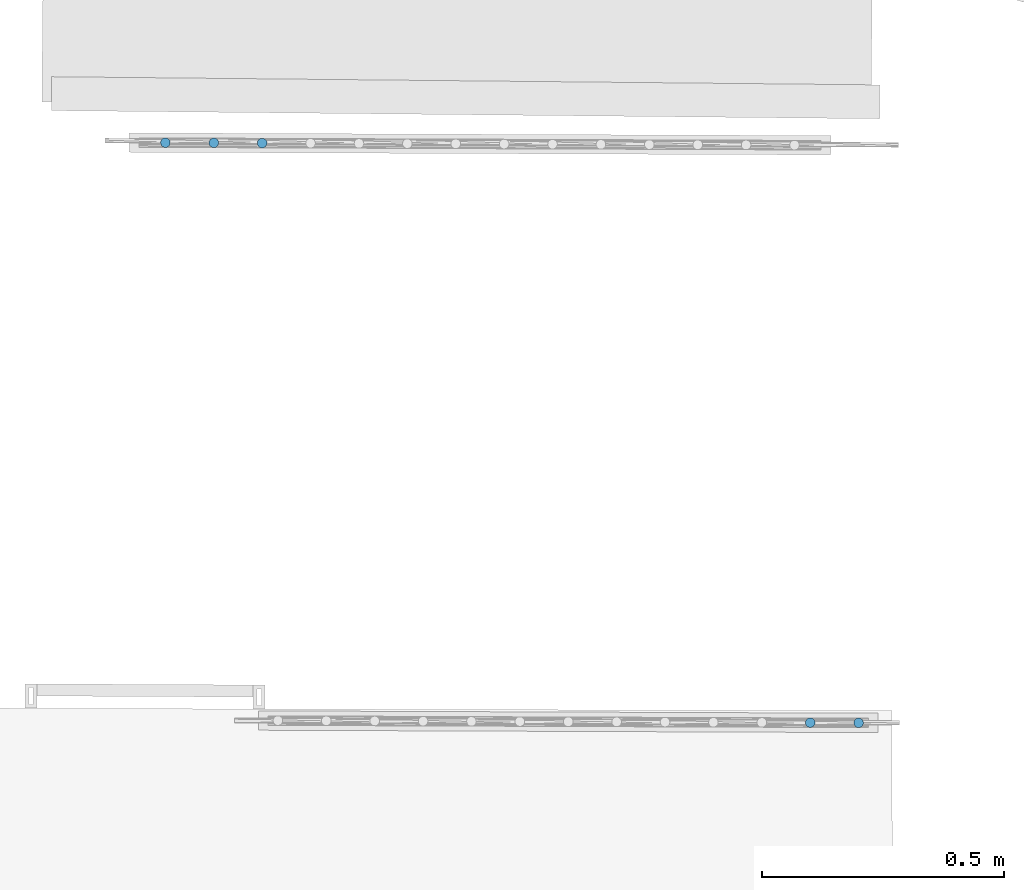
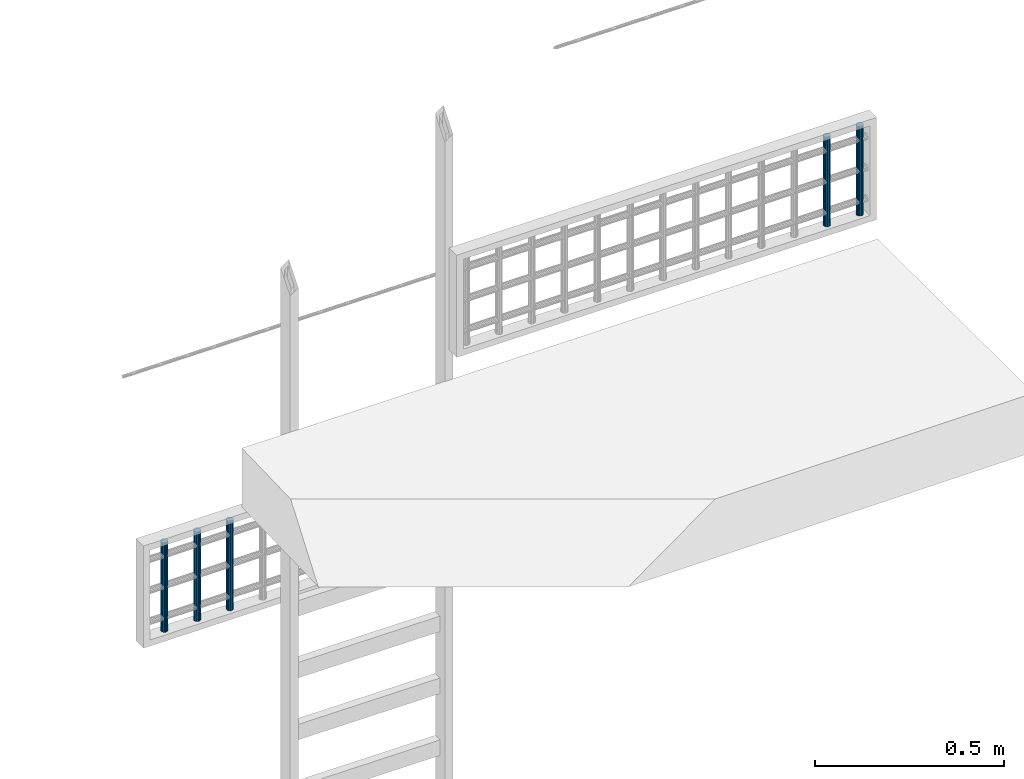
# One storey, part 17 of 39: 5 members, 2 elements without a shape of their own.
"""IFC2X3 building model written with IfcOpenShell, lengths in centimetres."""

from ifc_helpers import new_model, entity, si_unit, converted_unit, direction, frame, origin, origin_with_axes, place, context, subcontext, project, spatial, faceted_brep, material, type_object, element, aggregate, save


model = new_model("IFC2X3")

# Units and contexts
model_context = context("Model", 3, precision=0.0001, world=origin(), true_north=direction((0.225632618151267, 0.974212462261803, 0.0)))
body_context = subcontext(model_context, "Body", "Model", "MODEL_VIEW")
ifc_project = project(units=[si_unit("LENGTHUNIT", "METRE", prefix="CENTI"), si_unit("AREAUNIT", "SQUARE_METRE", prefix="CENTI"), si_unit("VOLUMEUNIT", "CUBIC_METRE", prefix="CENTI"), converted_unit("PLANEANGLEUNIT", "DEGREE", entity("IfcRatioMeasure", 0.0174532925), si_unit("PLANEANGLEUNIT", "RADIAN"), dimensions=[0, 0, 0, 0, 0, 0, 0])], contexts=[model_context])

# Site, building, storey
site_placement = place(None, origin_with_axes())
site = spatial("IfcSite", under=ifc_project, at=site_placement, Name="Default Site", CompositionType="ELEMENT")
building_placement = place(site_placement, origin_with_axes())
building = spatial("IfcBuilding", under=site, at=building_placement, Name="Default Building", CompositionType="ELEMENT")
storey_placement = place(building_placement, frame((0.0, 0.0, 1088.91037418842), z_axis=(0.0, 0.0, 1.0), x_axis=(1.0, 0.0, 0.0)))
storey = spatial("IfcBuildingStorey", under=building, at=storey_placement, Name="Mezzanine", CompositionType="ELEMENT", Elevation=1088.91037418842)

# Assembly, members
building_element_proxy_type = type_object("IfcBuildingElementProxyType", Name="Type Object", PredefinedType="NOTDEFINED")
assembly_1_placement = place(storey_placement, frame((1135.88365779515, -230.612962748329, -220.0), z_axis=(0.0, 0.0, 1.0), x_axis=(0.999992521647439, -0.00386738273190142, 0.0)))
assembly_1 = element("IfcElementAssembly", 1, at=assembly_1_placement, inside=storey, type_object=building_element_proxy_type, Name="Panneau 1519653", ObjectType="Precast panel", PredefinedType="USERDEFINED")
ifc_material = material(Name="Blanc trafic")
member_1_placement = place(assembly_1_placement, frame((8.43969285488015, 0.342020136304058, 31.0000002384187), z_axis=(0.0, 0.0, 0.999999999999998), x_axis=(0.500000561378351, -0.866025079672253, 0.0)))
member_1 = element("IfcMember", 2, at=member_1_placement, material=ifc_material, Name="4294967248", context=body_context, shape_type="Brep", body=[
    faceted_brep([(2.79637424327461e-13, 3.62210261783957e-13, 1.83186799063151e-13), (-0.347296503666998, 4.23272528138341e-13, 1.83186799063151e-13), (-0.673648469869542, -0.118782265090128, 1.83186799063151e-13), (-0.939693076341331, -0.34201987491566, 1.83186799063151e-13), (-1.11334134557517, -0.64278704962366, 1.83186799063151e-13), (-1.17364892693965, -0.984807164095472, 1.83186799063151e-13), (-1.11334184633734, -1.32682746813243, 1.83186799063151e-13), (-0.9396936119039, -1.62759464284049, 1.83186799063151e-13), (-0.673649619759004, -1.85083312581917, 1.83186799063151e-13), (-0.34729758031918, -1.96961516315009, 1.83186799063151e-13), (-1.44918135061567e-06, -1.96961580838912, 1.83186799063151e-13), (0.326350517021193, -1.85083354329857, 1.83186799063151e-13), (0.592395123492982, -1.62759593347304, 1.83186799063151e-13), (0.766043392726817, -1.32682875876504, 1.83186799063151e-13), (0.826350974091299, -0.984808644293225, 1.83186799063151e-13), (0.766043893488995, -0.642788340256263, 1.83186799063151e-13), (0.592396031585, -0.342020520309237, 1.83186799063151e-13), (0.326351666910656, -0.118782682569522, 1.83186799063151e-13), (0.326351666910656, -0.118782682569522, -29.0000002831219), (0.592396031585, -0.342020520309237, -29.0000002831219), (0.766043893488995, -0.642788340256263, -29.0000002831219), (0.826350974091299, -0.984808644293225, -29.0000002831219), (0.766043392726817, -1.32682875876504, -29.0000002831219), (0.592395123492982, -1.62759593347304, -29.0000002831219), (0.326350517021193, -1.85083354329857, -29.0000002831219), (-1.44918135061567e-06, -1.96961580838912, -29.0000002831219), (-0.34729758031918, -1.96961516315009, -29.0000002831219), (-0.673649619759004, -1.85083312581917, -29.0000002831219), (-0.9396936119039, -1.62759464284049, -29.0000002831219), (-1.11334184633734, -1.32682746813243, -29.0000002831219), (-1.17364892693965, -0.984807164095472, -29.0000002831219), (-1.11334134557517, -0.64278704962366, -29.0000002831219), (-0.939693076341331, -0.34201987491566, -29.0000002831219), (-0.673648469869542, -0.118782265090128, -29.0000002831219), (-0.347296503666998, 4.23272528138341e-13, -29.0000002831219), (2.79637424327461e-13, 3.62210261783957e-13, -29.0000002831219), (0.592395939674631, -0.342020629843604, 1.83186799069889e-13), (0.59239593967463, -0.342020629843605, -29.0000002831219), (0.326351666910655, -0.118782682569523, -29.0000002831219), (0.766044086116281, -0.642788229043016, 1.83186799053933e-13), (0.76604408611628, -0.642788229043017, -29.0000002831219), (0.592396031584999, -0.342020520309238, -29.0000002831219), (0.826351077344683, -0.984808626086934, 1.83186799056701e-13), (0.826351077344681, -0.984808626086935, -29.0000002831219), (0.766043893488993, -0.642788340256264, -29.0000002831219), (0.766043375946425, -1.32682875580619, 1.83186799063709e-13), (0.766043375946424, -1.32682875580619, -29.0000002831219), (0.826350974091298, -0.984808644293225, -29.0000002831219), (0.326350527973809, -1.85083355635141, 1.83186799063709e-13), (0.32635052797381, -1.85083355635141, -29.0000002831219), (0.592395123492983, -1.62759593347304, -29.0000002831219), (-1.4850408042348e-06, -1.96961570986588, 1.83186799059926e-13), (-1.48504080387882e-06, -1.96961570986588, -29.0000002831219), (-0.347297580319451, -1.96961558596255, 1.83186799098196e-13), (-0.347297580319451, -1.96961558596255, -29.0000002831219), (-0.673649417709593, -1.85083257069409, 1.8318679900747e-13), (-0.673649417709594, -1.85083257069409, -29.0000002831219), (-0.347297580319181, -1.9696151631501, -29.0000002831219), (-0.939693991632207, -1.62759509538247, 1.83186799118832e-13), (-0.939693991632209, -1.62759509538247, -29.0000002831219), (-0.673649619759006, -1.85083312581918, -29.0000002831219), (-1.11334148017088, -1.32682725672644, 1.83186799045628e-13), (-1.11334148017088, -1.32682725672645, -29.0000002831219), (-0.939693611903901, -1.62759464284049, -29.0000002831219), (-1.17364903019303, -0.984807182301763, 1.83186799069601e-13), (-1.17364903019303, -0.984807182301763, -29.0000002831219), (-1.11334184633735, -1.32682746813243, -29.0000002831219), (-1.11334132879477, -0.642787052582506, 1.83186799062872e-13), (-1.11334132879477, -0.642787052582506, -29.0000002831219), (-0.673648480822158, -0.118782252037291, 1.83186799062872e-13), (-0.673648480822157, -0.118782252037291, -29.0000002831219), (-0.347296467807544, -9.85228218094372e-08, 1.83186799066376e-13), (-0.347296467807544, -9.85228226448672e-08, -29.0000002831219), (-0.673648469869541, -0.118782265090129, -29.0000002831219), (1.37183726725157e-13, -2.22426384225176e-07, 1.83186799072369e-13), (1.37183725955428e-13, -2.22426385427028e-07, -29.0000002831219), (-0.347296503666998, 4.22070676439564e-13, -29.0000002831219), (0.326351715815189, -0.118782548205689, 1.83186799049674e-13), (0.326351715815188, -0.118782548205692, -29.0000002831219), (2.78702547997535e-13, 3.59641715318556e-13, -29.0000002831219)], [[[0, 1, 2, 3, 4, 5, 6, 7, 8, 9, 10, 11, 12, 13, 14, 15, 16, 17]], [[18, 19, 20, 21, 22, 23, 24, 25, 26, 27, 28, 29, 30, 31, 32, 33, 34, 35]], [[17, 36, 37, 38]], [[16, 39, 40, 41]], [[15, 42, 43, 44]], [[14, 45, 46, 47]], [[13, 12, 23, 22]], [[12, 48, 49, 50]], [[11, 51, 52, 24]], [[10, 53, 54, 25]], [[9, 55, 56, 57]], [[8, 58, 59, 60]], [[7, 61, 62, 63]], [[6, 64, 65, 66]], [[5, 67, 68, 30]], [[4, 3, 32, 31]], [[3, 69, 70, 32]], [[2, 71, 72, 73]], [[1, 74, 75, 76]], [[0, 77, 78, 79]]]),
])
member_2_placement = place(assembly_1_placement, frame((18.4396922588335, 0.342020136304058, 31.0000002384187), z_axis=(0.0, 0.0, 0.999999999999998), x_axis=(0.499998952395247, -0.866026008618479, 0.0)))
member_2 = element("IfcMember", 3, at=member_2_placement, material=ifc_material, Name="4294967247", context=body_context, shape_type="Brep", body=[
    faceted_brep([(2.95596880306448e-13, 4.88498130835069e-13, 5.55111512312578e-15), (-0.347296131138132, 3.38618022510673e-13, 5.55111512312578e-15), (-0.673647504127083, -0.118782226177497, 5.55111512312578e-15), (-0.939691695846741, -0.34202033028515, 5.55111512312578e-15), (-1.11333977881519, -0.642788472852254, 5.55111512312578e-15), (-1.17364672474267, -0.984808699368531, 5.55111512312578e-15), (-1.11333938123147, -1.32682953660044, 5.55111512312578e-15), (-0.939690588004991, -1.62759638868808, 5.55111512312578e-15), (-0.67364543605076, -1.85083308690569, 5.55111512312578e-15), (-0.347293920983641, -1.96961580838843, 5.55111512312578e-15), (2.21015478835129e-06, -1.96961580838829, 5.55111512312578e-15), (0.326354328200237, -1.85083229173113, 5.55111512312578e-15), (0.592398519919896, -1.62759418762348, 5.55111512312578e-15), (0.766046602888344, -1.32682604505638, 5.55111512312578e-15), (0.826353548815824, -0.984805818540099, 5.55111512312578e-15), (0.766045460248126, -0.64278627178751, 5.55111512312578e-15), (0.592396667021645, -0.342019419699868, 5.55111512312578e-15), (0.326352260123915, -0.11878143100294, 5.55111512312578e-15), (0.326352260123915, -0.11878143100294, -29.0000002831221), (0.592396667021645, -0.342019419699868, -29.0000002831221), (0.766045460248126, -0.64278627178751, -29.0000002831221), (0.826353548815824, -0.984805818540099, -29.0000002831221), (0.766046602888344, -1.32682604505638, -29.0000002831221), (0.592398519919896, -1.62759418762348, -29.0000002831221), (0.326354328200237, -1.85083229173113, -29.0000002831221), (2.21015478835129e-06, -1.96961580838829, -29.0000002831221), (-0.347293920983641, -1.96961580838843, -29.0000002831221), (-0.67364543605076, -1.85083308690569, -29.0000002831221), (-0.939690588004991, -1.62759638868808, -29.0000002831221), (-1.11333938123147, -1.32682953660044, -29.0000002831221), (-1.17364672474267, -0.984808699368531, -29.0000002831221), (-1.11333977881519, -0.642788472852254, -29.0000002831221), (-0.939691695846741, -0.34202033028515, -29.0000002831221), (-0.673647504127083, -0.118782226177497, -29.0000002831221), (-0.347296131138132, 3.38618022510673e-13, -29.0000002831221), (2.95596880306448e-13, 4.88498130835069e-13, -29.0000002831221), (0.59239704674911, -0.342018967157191, 5.55111506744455e-15), (0.592397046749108, -0.342018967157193, -29.0000002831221), (0.326352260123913, -0.118781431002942, -29.0000002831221), (0.76604509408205, -0.642786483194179, 5.55111515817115e-15), (0.766045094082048, -0.64278648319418, -29.0000002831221), (0.592396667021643, -0.342019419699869, -29.0000002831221), (0.826353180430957, -0.984805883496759, 5.55111514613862e-15), (0.826353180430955, -0.984805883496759, -29.0000002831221), (0.766045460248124, -0.64278627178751, -29.0000002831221), (0.766046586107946, -1.32682604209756, 5.55111512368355e-15), (0.766046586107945, -1.32682604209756, -29.0000002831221), (0.826353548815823, -0.984805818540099, -29.0000002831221), (0.592398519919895, -1.62759418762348, 5.55111512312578e-15), (0.592398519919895, -1.62759418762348, -29.0000002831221), (0.326354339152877, -1.85083230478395, 5.55111512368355e-15), (0.326354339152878, -1.85083230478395, -29.0000002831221), (2.0104963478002e-06, -1.96961525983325, 5.55111512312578e-15), (2.0104963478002e-06, -1.96961525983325, -29.0000002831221), (-0.347293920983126, -1.96961623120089, 5.55111515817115e-15), (-0.347293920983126, -1.96961623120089, -29.0000002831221), (2.2101547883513e-06, -1.96961580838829, -29.0000002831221), (-0.673645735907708, -1.850833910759, 5.55111520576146e-15), (-0.673645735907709, -1.850833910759, -29.0000002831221), (-0.347293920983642, -1.96961580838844, -29.0000002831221), (-0.939690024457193, -1.62759571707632, 5.55111504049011e-15), (-0.939690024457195, -1.62759571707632, -29.0000002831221), (-0.673645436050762, -1.85083308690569, -29.0000002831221), (-1.11333901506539, -1.32682932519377, 5.55111512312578e-15), (-1.11333901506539, -1.32682932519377, -29.0000002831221), (-1.17364729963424, -0.984808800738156, 5.551115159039e-15), (-1.17364729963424, -0.984808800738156, -29.0000002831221), (-1.11333976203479, -0.64278847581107, 5.55111512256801e-15), (-1.11333976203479, -0.64278847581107, -29.0000002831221), (-1.17364672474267, -0.98480869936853, -29.0000002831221), (-0.673647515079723, -0.118782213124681, 5.55111512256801e-15), (-0.673647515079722, -0.118782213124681, -29.0000002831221), (-0.93969169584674, -0.342020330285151, -29.0000002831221), (-0.3472962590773, 3.51509016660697e-07, 5.55111510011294e-15), (-0.3472962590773, 3.51509014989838e-07, -29.0000002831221), (-0.673647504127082, -0.118782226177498, -29.0000002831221), (-2.19152406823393e-13, 4.22812944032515e-07, 5.55111508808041e-15), (-2.19152403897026e-13, 4.22812941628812e-07, -29.0000002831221), (-0.347296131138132, 3.36214319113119e-13, -29.0000002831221), (0.326352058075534, -0.118781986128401, 5.55111517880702e-15), (0.326352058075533, -0.118781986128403, -29.0000002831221), (2.94662008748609e-13, 4.85929582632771e-13, -29.0000002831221)], [[[0, 1, 2, 3, 4, 5, 6, 7, 8, 9, 10, 11, 12, 13, 14, 15, 16, 17]], [[18, 19, 20, 21, 22, 23, 24, 25, 26, 27, 28, 29, 30, 31, 32, 33, 34, 35]], [[17, 36, 37, 38]], [[16, 39, 40, 41]], [[15, 42, 43, 44]], [[14, 45, 46, 47]], [[13, 48, 49, 22]], [[12, 50, 51, 23]], [[11, 52, 53, 24]], [[10, 54, 55, 56]], [[9, 57, 58, 59]], [[8, 60, 61, 62]], [[7, 63, 64, 28]], [[6, 65, 66, 29]], [[5, 67, 68, 69]], [[4, 3, 32, 31]], [[3, 70, 71, 72]], [[2, 73, 74, 75]], [[1, 76, 77, 78]], [[0, 79, 80, 81]]]),
])
member_3_placement = place(assembly_1_placement, frame((28.4396916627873, 0.342020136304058, 31.0000002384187), z_axis=(0.0, 0.0, 0.999999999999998), x_axis=(0.499995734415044, -0.866027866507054, 0.0)))
member_3 = element("IfcMember", 4, at=member_3_placement, material=ifc_material, Name="4294967246", context=body_context, shape_type="Brep", body=[
    faceted_brep([(2.77555756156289e-13, 1.94289029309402e-13, 1.83186799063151e-13), (-0.347295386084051, 2.44249065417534e-13, 1.83186799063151e-13), (-0.673647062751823, -0.118784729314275, 1.83186799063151e-13), (-0.939691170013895, -0.34202511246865, 1.83186799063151e-13), (-1.11333739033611, -0.6427926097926, 1.83186799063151e-13), (-1.17364232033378, -0.984811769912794, 1.83186799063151e-13), (-1.11333370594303, -1.3268323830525, 1.83186799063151e-13), (-0.939684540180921, -1.6275998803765, 1.83186799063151e-13), (-0.673639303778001, -1.85083688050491, 1.83186799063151e-13), (-0.347286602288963, -1.9696170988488, 1.83186799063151e-13), (1.02738987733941e-05, -1.96961451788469, 1.83186799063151e-13), (0.326361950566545, -1.85082978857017, 1.83186799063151e-13), (0.59240456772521, -1.62759198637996, 1.83186799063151e-13), (0.766050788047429, -1.32682448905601, 1.83186799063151e-13), (0.826357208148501, -0.984802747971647, 1.83186799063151e-13), (0.766048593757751, -0.642782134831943, 1.83186799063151e-13), (0.592397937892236, -0.342017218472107, 1.83186799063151e-13), (0.326352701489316, -0.1187802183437, 1.83186799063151e-13), (0.326352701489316, -0.1187802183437, -29.0000002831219), (0.592397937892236, -0.342017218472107, -29.0000002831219), (0.766048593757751, -0.642782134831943, -29.0000002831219), (0.826357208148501, -0.984802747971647, -29.0000002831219), (0.766050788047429, -1.32682448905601, -29.0000002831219), (0.59240456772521, -1.62759198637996, -29.0000002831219), (0.326361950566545, -1.85082978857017, -29.0000002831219), (1.02738987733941e-05, -1.96961451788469, -29.0000002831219), (-0.347286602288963, -1.9696170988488, -29.0000002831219), (-0.673639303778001, -1.85083688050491, -29.0000002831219), (-0.939684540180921, -1.6275998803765, -29.0000002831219), (-1.11333370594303, -1.3268323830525, -29.0000002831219), (-1.17364232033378, -0.984811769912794, -29.0000002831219), (-1.11333739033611, -0.6427926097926, -29.0000002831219), (-0.939691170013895, -0.34202511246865, -29.0000002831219), (-0.673647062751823, -0.118784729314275, -29.0000002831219), (-0.347295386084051, 2.44249065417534e-13, -29.0000002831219), (2.77555756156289e-13, 1.94289029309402e-13, -29.0000002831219), (0.592398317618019, -0.342016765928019, 1.83186799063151e-13), (0.592398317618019, -0.342016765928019, -29.0000002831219), (0.766047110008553, -0.64278299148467, 1.83186799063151e-13), (0.766047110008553, -0.64278299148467, -29.0000002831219), (0.826357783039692, -0.984802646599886, 1.83186799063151e-13), (0.826357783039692, -0.984802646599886, -29.0000002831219), (0.766051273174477, -1.32682457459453, 1.83186799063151e-13), (0.766051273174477, -1.32682457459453, -29.0000002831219), (0.592404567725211, -1.62759198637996, 1.83186799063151e-13), (0.592404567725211, -1.62759198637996, -29.0000002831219), (0.326362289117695, -1.85083019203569, 1.83186799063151e-13), (0.326362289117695, -1.85083019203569, -29.0000002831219), (1.00742382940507e-05, -1.96961396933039, 1.83186799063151e-13), (1.00742382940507e-05, -1.96961396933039, -29.0000002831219), (-0.347286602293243, -1.96961623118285, 1.83186799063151e-13), (-0.347286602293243, -1.96961623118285, -29.0000002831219), (-0.673639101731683, -1.8508363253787, 1.83186799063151e-13), (-0.673639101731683, -1.8508363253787, -29.0000002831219), (-0.939684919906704, -1.62760033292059, 1.83186799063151e-13), (-0.939684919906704, -1.62760033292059, -29.0000002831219), (-1.11333445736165, -1.32683281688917, 1.83186799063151e-13), (-1.11333445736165, -1.32683281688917, -29.0000002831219), (-1.17364289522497, -0.984811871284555, 1.83186799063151e-13), (-1.17364289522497, -0.984811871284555, -29.0000002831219), (-1.11333687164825, -0.642792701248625, 1.83186799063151e-13), (-1.11333687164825, -0.642792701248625, -29.0000002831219), (-0.939691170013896, -0.342025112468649, 1.83186799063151e-13), (-0.939691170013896, -0.342025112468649, -29.0000002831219), (-0.673646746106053, -0.118785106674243, 1.83186799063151e-13), (-0.673646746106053, -0.118785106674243, -29.0000002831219), (-0.347295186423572, -5.48554046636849e-07, 1.83186799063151e-13), (-0.347295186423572, -5.48554046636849e-07, -29.0000002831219), (-8.17451593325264e-12, 1.71329105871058e-06, 1.83186799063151e-13), (-8.17451593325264e-12, 1.71329105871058e-06, -29.0000002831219), (0.326352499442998, -0.118780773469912, 1.83186799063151e-13), (0.326352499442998, -0.118780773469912, -29.0000002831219)], [[[0, 1, 2, 3, 4, 5, 6, 7, 8, 9, 10, 11, 12, 13, 14, 15, 16, 17]], [[18, 19, 20, 21, 22, 23, 24, 25, 26, 27, 28, 29, 30, 31, 32, 33, 34, 35]], [[17, 36, 37, 18]], [[16, 38, 39, 19]], [[15, 40, 41, 20]], [[14, 42, 43, 21]], [[13, 44, 45, 22]], [[12, 46, 47, 23]], [[11, 48, 49, 24]], [[10, 50, 51, 25]], [[9, 52, 53, 26]], [[8, 54, 55, 27]], [[7, 56, 57, 28]], [[6, 58, 59, 29]], [[5, 60, 61, 30]], [[4, 62, 63, 31]], [[3, 64, 65, 32]], [[2, 66, 67, 33]], [[1, 68, 69, 34]], [[0, 70, 71, 35]]]),
])
aggregate(assembly_1, [member_1, member_2, member_3])

assembly_2_placement = place(storey_placement, frame((1162.63, -350.05, -63.0000000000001), z_axis=(0.0, 0.0, 1.0), x_axis=(0.999992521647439, -0.00386738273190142, 0.0)))
assembly_2 = element("IfcElementAssembly", 5, at=assembly_2_placement, inside=storey, type_object=building_element_proxy_type, Name="Panneau 1519648", ObjectType="Precast panel", PredefinedType="USERDEFINED")
member_4_placement = place(assembly_2_placement, frame((114.939689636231, 0.342020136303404, 31.0000002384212), z_axis=(0.0, 0.0, 0.999999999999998), x_axis=(0.499982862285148, -0.866035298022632, 0.0)))
member_4 = element("IfcMember", 6, at=member_4_placement, material=ifc_material, Name="4294967213", context=body_context, shape_type="Brep", body=[
    faceted_brep([(-2.53130849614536e-12, -2.66453525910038e-12, -2.75890421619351e-12), (-0.347292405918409, -2.62012633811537e-12, -2.75890421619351e-12), (-0.673645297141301, -0.118794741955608, -2.75890421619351e-12), (-0.939683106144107, -0.342033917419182, -2.75890421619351e-12), (-1.11332932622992, -0.642811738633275, -2.75890421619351e-12), (-1.17362768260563, -0.984829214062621, -2.75890421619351e-12), (-1.11331100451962, -1.32684376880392, -2.75890421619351e-12), (-0.939658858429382, -1.6276112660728, -2.75890421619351e-12), (-0.673610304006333, -1.85084431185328, -2.75890421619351e-12), (-0.347255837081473, -1.96961967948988, -2.75890421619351e-12), (4.25290945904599e-05, -1.96960935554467, -2.75890421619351e-12), (0.326389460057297, -1.85082493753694, -2.75890421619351e-12), (0.592427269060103, -1.62758576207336, -2.75890421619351e-12), (0.766073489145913, -1.32680794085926, -2.75890421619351e-12), (0.826371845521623, -0.98479046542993, -2.75890421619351e-12), (0.766061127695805, -0.642765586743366, -2.75890421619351e-12), (0.592403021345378, -0.342008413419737, -2.75890421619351e-12), (0.32635446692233, -0.118775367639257, -2.75890421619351e-12), (0.32635446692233, -0.118775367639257, -29.0000002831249), (0.592403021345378, -0.342008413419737, -29.0000002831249), (0.766061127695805, -0.642765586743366, -29.0000002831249), (0.826371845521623, -0.98479046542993, -29.0000002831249), (0.766073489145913, -1.32680794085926, -29.0000002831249), (0.592427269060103, -1.62758576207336, -29.0000002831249), (0.326389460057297, -1.85082493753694, -29.0000002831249), (4.25290945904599e-05, -1.96960935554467, -29.0000002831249), (-0.347255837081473, -1.96961967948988, -29.0000002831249), (-0.673610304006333, -1.85084431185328, -29.0000002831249), (-0.939658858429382, -1.6276112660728, -29.0000002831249), (-1.11331100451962, -1.32684376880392, -29.0000002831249), (-1.17362768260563, -0.984829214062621, -29.0000002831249), (-1.11332932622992, -0.642811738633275, -29.0000002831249), (-0.939683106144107, -0.342033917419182, -29.0000002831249), (-0.673645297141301, -0.118794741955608, -29.0000002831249), (-0.347292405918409, -2.62012633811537e-12, -29.0000002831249), (-2.53130849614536e-12, -2.66453525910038e-12, -29.0000002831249), (0.592403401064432, -0.342007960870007, -2.75890421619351e-12), (0.592403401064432, -0.342007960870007, -29.0000002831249), (0.766055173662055, -0.642769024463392, -2.75890421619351e-12), (0.766055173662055, -0.642769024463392, -29.0000002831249), (0.826376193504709, -0.98478969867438, -2.75890421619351e-12), (0.826376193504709, -0.98478969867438, -29.0000002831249), (0.766071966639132, -1.32680767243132, -2.75890421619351e-12), (0.766071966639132, -1.32680767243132, -29.0000002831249), (0.592427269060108, -1.62758576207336, -2.75890421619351e-12), (0.592427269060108, -1.62758576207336, -29.0000002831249), (0.326390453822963, -1.85082612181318, -2.75890421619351e-12), (0.326390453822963, -1.85082612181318, -29.0000002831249), (4.36398832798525e-05, -1.96961240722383, -2.75890421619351e-12), (4.36398832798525e-05, -1.96961240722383, -29.0000002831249), (-0.347255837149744, -1.96961623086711, -2.75890421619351e-12), (-0.347255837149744, -1.96961623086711, -29.0000002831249), (-0.67361010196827, -1.85084375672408, -2.75890421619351e-12), (-0.67361010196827, -1.85084375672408, -29.0000002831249), (-0.939659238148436, -1.62761171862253, -2.75890421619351e-12), (-0.939659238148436, -1.62761171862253, -29.0000002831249), (-1.11331399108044, -1.32684549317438, -2.75890421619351e-12), (-1.11331399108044, -1.32684549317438, -29.0000002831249), (-1.17362448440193, -0.984828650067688, -2.75890421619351e-12), (-1.17362448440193, -0.984828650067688, -29.0000002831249), (-1.11332780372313, -0.642812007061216, -2.75890421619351e-12), (-1.11332780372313, -0.642812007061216, -29.0000002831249), (-0.939683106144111, -0.34203391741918, -2.75890421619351e-12), (-0.939683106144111, -0.34203391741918, -29.0000002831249), (-0.673646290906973, -0.118793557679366, -2.75890421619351e-12), (-0.673646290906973, -0.118793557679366, -29.0000002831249), (-0.347290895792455, -4.14878442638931e-06, -2.75890421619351e-12), (-0.347290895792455, -4.14878442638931e-06, -29.0000002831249), (-1.38636894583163e-10, 6.87520182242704e-06, -2.75890421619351e-12), (-1.38636894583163e-10, 6.87520182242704e-06, -29.0000002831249), (0.326354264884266, -0.118775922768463, -2.75890421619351e-12), (0.326354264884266, -0.118775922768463, -29.0000002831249)], [[[0, 1, 2, 3, 4, 5, 6, 7, 8, 9, 10, 11, 12, 13, 14, 15, 16, 17]], [[18, 19, 20, 21, 22, 23, 24, 25, 26, 27, 28, 29, 30, 31, 32, 33, 34, 35]], [[17, 36, 37, 18]], [[16, 38, 39, 19]], [[15, 40, 41, 20]], [[14, 42, 43, 21]], [[13, 44, 45, 22]], [[12, 46, 47, 23]], [[11, 48, 49, 24]], [[10, 50, 51, 25]], [[9, 52, 53, 26]], [[8, 54, 55, 27]], [[7, 56, 57, 28]], [[6, 58, 59, 29]], [[5, 60, 61, 30]], [[4, 62, 63, 31]], [[3, 64, 65, 32]], [[2, 66, 67, 33]], [[1, 68, 69, 34]], [[0, 70, 71, 35]]]),
])
member_5_placement = place(assembly_2_placement, frame((124.939692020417, 0.342020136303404, 31.0000002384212), z_axis=(0.0, 0.0, 0.999999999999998), x_axis=(0.500008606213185, -0.866020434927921, 0.0)))
member_5 = element("IfcMember", 7, at=member_5_placement, material=ifc_material, Name="4294967212", context=body_context, shape_type="Brep", body=[
    faceted_brep([(-2.35367281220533e-12, -2.53130849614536e-12, -2.75890421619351e-12), (-0.347298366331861, -2.64233079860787e-12, -2.75890421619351e-12), (-0.673648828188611, -0.118774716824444, -2.75890421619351e-12), (-0.93969327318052, -0.342005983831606, -2.75890421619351e-12), (-1.11334843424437, -0.642778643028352, -2.75890421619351e-12), (-1.17365695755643, -0.984794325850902, -2.75890421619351e-12), (-1.11335640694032, -1.32682099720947, -2.75890421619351e-12), (-0.939707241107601, -1.62758333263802, -2.75890421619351e-12), (-0.673665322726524, -1.85082428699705, -2.75890421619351e-12), (-0.347314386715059, -1.96960935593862, -2.75890421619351e-12), (-2.19809526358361e-05, -1.96961967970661, -2.75890421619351e-12), (0.326334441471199, -1.85083463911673, -2.75890421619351e-12), (0.592378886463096, -1.62760337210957, -2.75890421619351e-12), (0.766034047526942, -1.32683071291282, -2.75890421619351e-12), (0.826342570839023, -0.984815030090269, -2.75890421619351e-12), (0.766036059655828, -0.64279868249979, -2.75890421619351e-12), (0.592392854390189, -0.342026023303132, -2.75890421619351e-12), (0.326350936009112, -0.118785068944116, -2.75890421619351e-12), (0.326350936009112, -0.118785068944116, -29.0000002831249), (0.592392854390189, -0.342026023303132, -29.0000002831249), (0.766036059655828, -0.64279868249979, -29.0000002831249), (0.826342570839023, -0.984815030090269, -29.0000002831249), (0.766034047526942, -1.32683071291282, -29.0000002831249), (0.592378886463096, -1.62760337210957, -29.0000002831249), (0.326334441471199, -1.85083463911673, -29.0000002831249), (-2.19809526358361e-05, -1.96961967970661, -29.0000002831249), (-0.347314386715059, -1.96960935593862, -29.0000002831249), (-0.673665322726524, -1.85082428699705, -29.0000002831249), (-0.939707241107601, -1.62758333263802, -29.0000002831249), (-1.11335640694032, -1.32682099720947, -29.0000002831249), (-1.17365695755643, -0.984794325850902, -29.0000002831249), (-1.11334843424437, -0.642778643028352, -29.0000002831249), (-0.93969327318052, -0.342005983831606, -29.0000002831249), (-0.673648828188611, -0.118774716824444, -29.0000002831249), (-0.347298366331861, -2.64233079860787e-12, -29.0000002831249), (-2.35367281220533e-12, -2.53130849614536e-12, -29.0000002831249), (0.592393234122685, -0.342025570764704, -2.75890421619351e-12), (0.592393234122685, -0.342025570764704, -29.0000002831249), (0.766039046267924, -0.642796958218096, -2.75890421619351e-12), (0.766039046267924, -0.642796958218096, -29.0000002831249), (0.826339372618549, -0.984815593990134, -2.75890421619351e-12), (0.826339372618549, -0.984815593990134, -29.0000002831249), (0.766032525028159, -1.32683044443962, -2.75890421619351e-12), (0.766032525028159, -1.32683044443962, -29.0000002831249), (0.592378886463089, -1.62760337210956, -2.75890421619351e-12), (0.592378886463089, -1.62760337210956, -29.0000002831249), (0.326335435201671, -1.85083582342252, -2.75890421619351e-12), (0.326335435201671, -1.85083582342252, -29.0000002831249), (-2.34909552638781e-05, -1.96961553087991, -2.75890421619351e-12), (-2.34909552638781e-05, -1.96961553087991, -29.0000002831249), (-0.347314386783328, -1.96961623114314, -2.75890421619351e-12), (-0.347314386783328, -1.96961623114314, -29.0000002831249), (-0.673665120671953, -1.85082373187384, -2.75890421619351e-12), (-0.673665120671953, -1.85082373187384, -29.0000002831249), (-0.939707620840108, -1.62758378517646, -2.75890421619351e-12), (-0.939707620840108, -1.62758378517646, -29.0000002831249), (-1.11335045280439, -1.32681755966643, -2.75890421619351e-12), (-1.11335045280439, -1.32681755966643, -29.0000002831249), (-1.1736613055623, -0.9847950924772, -2.75890421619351e-12), (-1.1736613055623, -0.9847950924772, -29.0000002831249), (-1.11334691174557, -0.64277891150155, -2.75890421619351e-12), (-1.11334691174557, -0.64277891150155, -29.0000002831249), (-0.939693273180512, -0.34200598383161, -2.75890421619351e-12), (-0.939693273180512, -0.34200598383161, -29.0000002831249), (-0.673649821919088, -0.118773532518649, -2.75890421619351e-12), (-0.673649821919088, -0.118773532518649, -29.0000002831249), (-0.347299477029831, 3.0517095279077e-06, -2.75890421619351e-12), (-0.347299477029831, 3.0517095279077e-06, -29.0000002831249), (-3.65979992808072e-11, -3.44862530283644e-06, -2.75890421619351e-12), (-3.65979992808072e-11, -3.44862530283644e-06, -29.0000002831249), (0.326350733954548, -0.118785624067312, -2.75890421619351e-12), (0.326350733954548, -0.118785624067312, -29.0000002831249)], [[[0, 1, 2, 3, 4, 5, 6, 7, 8, 9, 10, 11, 12, 13, 14, 15, 16, 17]], [[18, 19, 20, 21, 22, 23, 24, 25, 26, 27, 28, 29, 30, 31, 32, 33, 34, 35]], [[17, 36, 37, 18]], [[16, 38, 39, 19]], [[15, 40, 41, 20]], [[14, 42, 43, 21]], [[13, 44, 45, 22]], [[12, 46, 47, 23]], [[11, 48, 49, 24]], [[10, 50, 51, 25]], [[9, 52, 53, 26]], [[8, 54, 55, 27]], [[7, 56, 57, 28]], [[6, 58, 59, 29]], [[5, 60, 61, 30]], [[4, 62, 63, 31]], [[3, 64, 65, 32]], [[2, 66, 67, 33]], [[1, 68, 69, 34]], [[0, 70, 71, 35]]]),
])
aggregate(assembly_2, [member_4, member_5])

save(model, "model.ifc")
